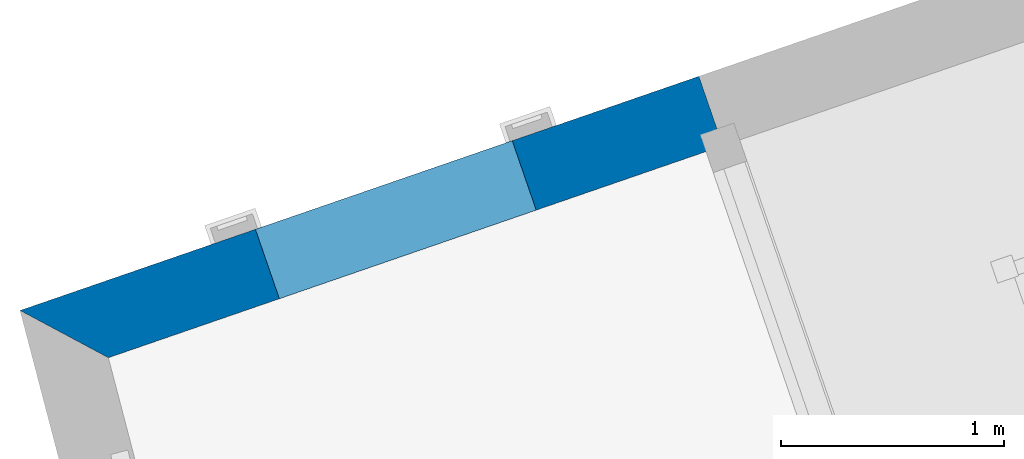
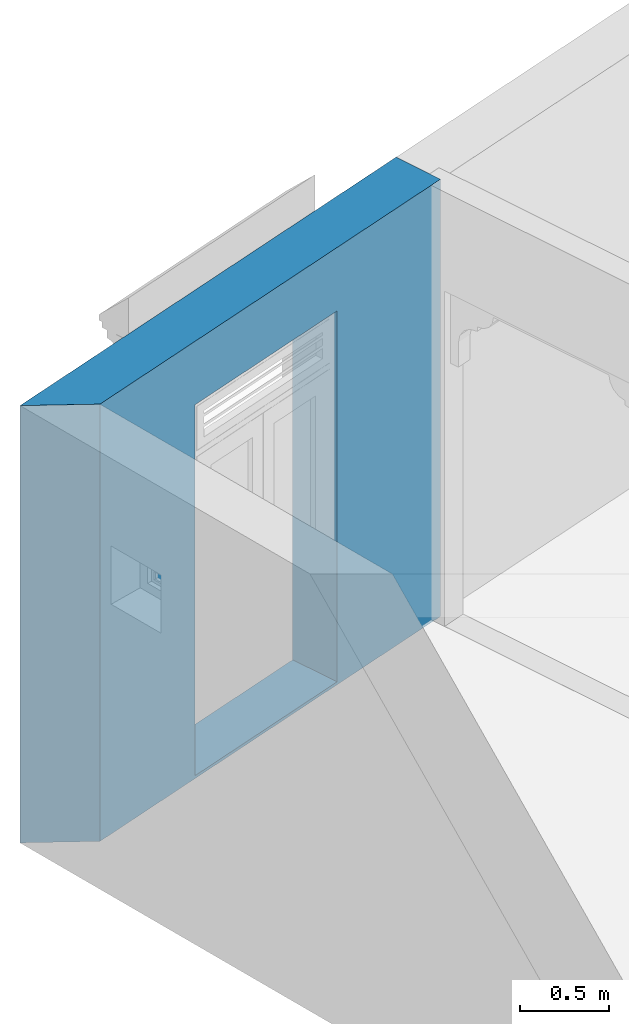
# One storey, part 11 of 16: 1 wall, 1 opening.
"""IFC4 building model written with IfcOpenShell, lengths in metres."""

from ifc_helpers import new_model, si_unit, frame, origin_with_axes, place, context, subcontext, project, spatial, polyline, outline, extrude, material, layer, layer_set, layer_usage, type_object, element, save


model = new_model("IFC4")

# Units and contexts
model_context = context("Model", 3, world=origin_with_axes())
body_context = subcontext(model_context, "Body", "Model", "MODEL_VIEW")
ifc_project = project(units=[si_unit("PLANEANGLEUNIT", "RADIAN"), si_unit("MASSUNIT", "GRAM", prefix="KILO"), si_unit("FORCEUNIT", "NEWTON", prefix="KILO"), si_unit("LENGTHUNIT", "METRE"), si_unit("AREAUNIT", "SQUARE_METRE"), si_unit("VOLUMEUNIT", "CUBIC_METRE")], contexts=[model_context, model_context])

# Site, building, storey
site_placement = place(None, origin_with_axes())
site = spatial("IfcSite", under=ifc_project, at=site_placement, Name="Site plot-8", CompositionType="ELEMENT")
building_placement = place(None, origin_with_axes())
building = spatial("IfcBuilding", under=site, at=building_placement, Name="Building plot-8", CompositionType="ELEMENT")
storey_placement = place(None, origin_with_axes())
storey = spatial("IfcBuildingStorey", under=building, at=storey_placement, Name="plot-8 0", CompositionType="ELEMENT", Elevation=0.0)

# Wall, opening
ifc_material = material(Name="Masonry")
ifc_layer = layer(ifc_material, 0.33, ventilated=False)
ifc_layer_set = layer_set([ifc_layer], Name="exterior_0.08_0.25")
ifc_layer_usage = layer_usage(ifc_layer_set, "AXIS2", "POSITIVE", -0.25)
wall_type = type_object("IfcWallType", Name="exterior_0.08_0.25", PredefinedType="SOLIDWALL", material=ifc_layer_set)
wall_placement = place(storey_placement, frame((-12.2630116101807, 22.4843771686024, 0.0), z_axis=(0.0, 0.0, 1.0), x_axis=(-0.945331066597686, -0.326112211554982, 0.0)))
wall = element("IfcWall", 1, at=wall_placement, inside=storey, type_object=wall_type, material=ifc_layer_usage, Name="exterior", context=body_context, shape_type="SweptSolid", body=[
    extrude(outline(polyline([(-2.50159533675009e-15, 0.0799999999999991), (6.78766853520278e-15, -0.249999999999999), (3.22456777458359, -0.250000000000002), (2.9188569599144, 0.0799999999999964), (-2.50159533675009e-15, 0.0799999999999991)])), origin_with_axes(), (0.0, 0.0, 1.0), 3.0),
])
opening_placement = place(wall_placement, frame((0.886484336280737, 0.0, 0.02)))
element("IfcOpeningElement", 2, at=opening_placement, cuts=wall, Name="My Opening", ObjectType="Opening", context=body_context, shape_type="SweptSolid", body=[
    extrude(outline(polyline([(0.0, -0.270000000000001), (1.22, -0.27), (1.22, 1.1), (0.0, 1.1), (0.0, -0.270000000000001)])), origin_with_axes(), (0.0, 0.0, 1.0), 2.545),
])

save(model, "model.ifc")
